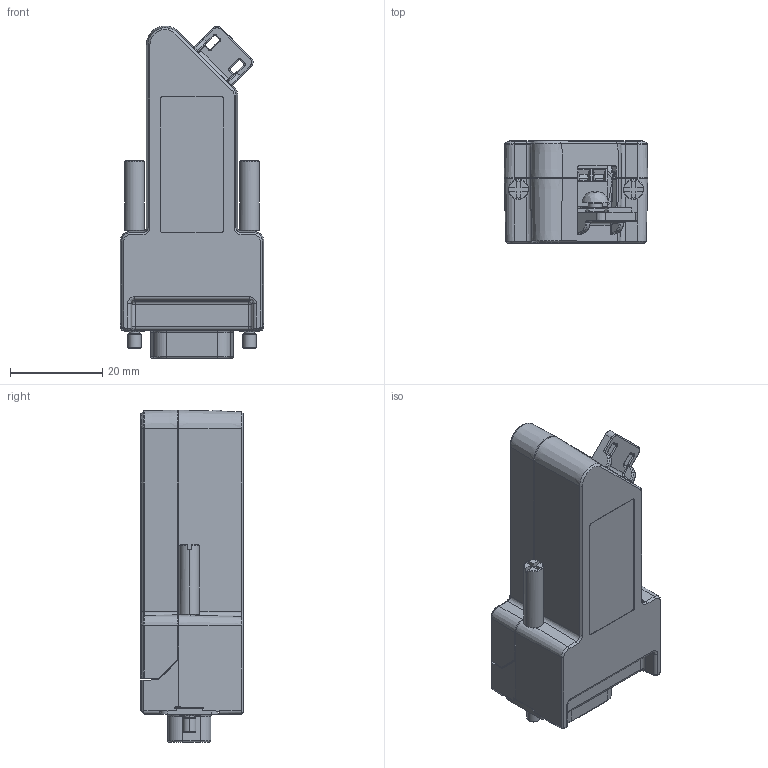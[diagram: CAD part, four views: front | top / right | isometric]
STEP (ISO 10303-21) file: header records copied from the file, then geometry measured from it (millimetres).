
FILE_DESCRIPTION((''),'2;1');
FILE_NAME('CU_NI-998X_F_ADAPTER','2015-11-20T',('dkendric'),(''),'PRO/ENGINEER BY PARAMETRIC TECHNOLOGY CORPORATION, 2015280','PRO/ENGINEER BY PARAMETRIC TECHNOLOGY CORPORATION, 2015280','');
FILE_SCHEMA(('CONFIG_CONTROL_DESIGN'));
Length unit declared in the file: inch
Products named in the file (1): CU_NI-998X_F_ADAPTER
Bounding box: 31.26 x 22.2 x 72.11 mm (x, y, z)
Volume: 15697.5 mm3; surface area: 19701.9 mm2
Topology: 2 solids, 4 shells, 3431 faces, 9002 edges, 5719 vertices
Faces by surface type: plane 1953, cylinder 817, bspline 227, torus 159, extrusion 119, cone 92, sphere 64
Entity records: 125765 total; most frequent: CARTESIAN_POINT 43385, ORIENTED_EDGE 17990, DIRECTION 15659, EDGE_CURVE 8995, VECTOR 6093, LINE 5974, VERTEX_POINT 5738, AXIS2_PLACEMENT_3D 4783
